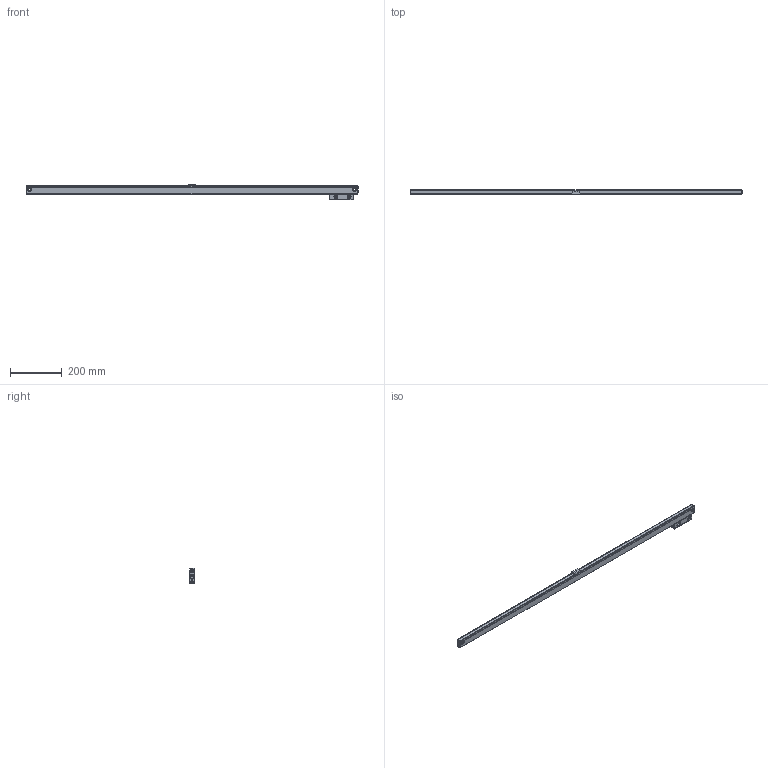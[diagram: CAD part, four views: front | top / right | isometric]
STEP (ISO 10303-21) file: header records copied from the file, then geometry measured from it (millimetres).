
FILE_DESCRIPTION(('Creo Elements/Direct Modeling STEP Export'),'2;1');
FILE_NAME('S-1140.stp','2011-12-14T12:11:31',(''),(''),'Creo Elements/Direct Modeling STEP processor for AP214 (Solid Model)','Creo Elements/Direct Modeling 17.0C 05-Feb-2011 (C) Parametric Technology GmbH','');
FILE_SCHEMA(('AUTOMOTIVE_DESIGN { 1 0 10303 214 1 1 1 1 }'));
Length unit declared in the file: millimetre
Products named in the file (4): PERFIL_S; SOPORTE_INTERMEDIO_S; CABEZA_S; S_1140
Assembly tree (3 placements, depth 2):
  S_1140
    CABEZA_S
    SOPORTE_INTERMEDIO_S
    PERFIL_S
Bounding box: 1282 x 18 x 61.71 mm (x, y, z)
Volume: 1055116.1 mm3; surface area: 317915.2 mm2
Topology: 15 solids, 25 shells, 762 faces, 1909 edges, 1209 vertices
Faces by surface type: plane 311, cylinder 296, cone 109, torus 32, sphere 12, bspline 2
Entity records: 25705 total; most frequent: CARTESIAN_POINT 4825, ORIENTED_EDGE 3830, DIRECTION 3607, EDGE_CURVE 1891, AXIS2_PLACEMENT_3D 1274, VERTEX_POINT 1209, VECTOR 1059, LINE 1059
